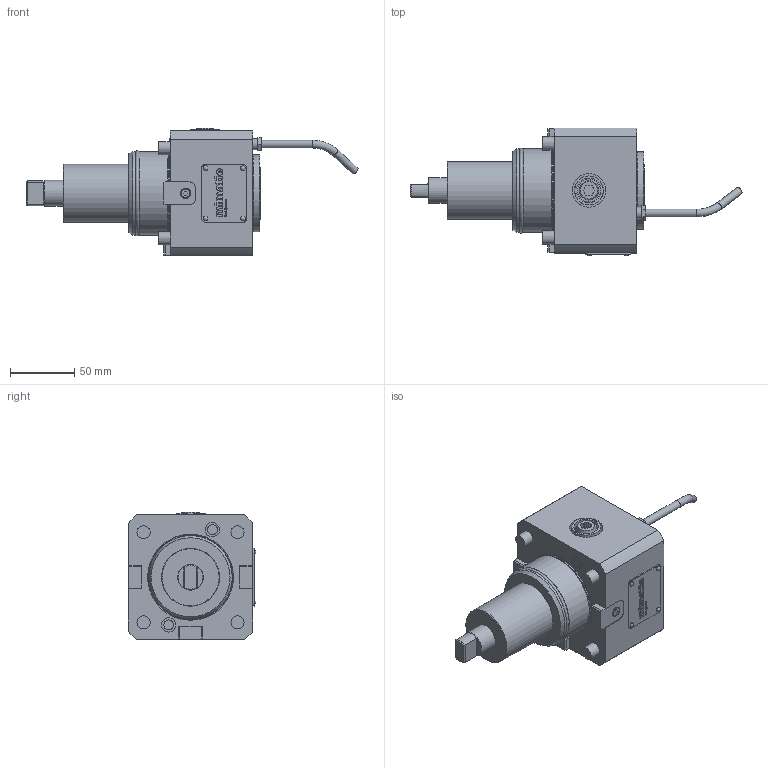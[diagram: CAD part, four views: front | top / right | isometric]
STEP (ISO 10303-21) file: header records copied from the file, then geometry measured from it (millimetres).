
FILE_DESCRIPTION(/* description */ (''),/* implementation_level */ '2;1');
FILE_NAME(/* name */ '197602',/* time_stamp */ '2021-12-16T15:48:41+01:00',/* author */ (''),/* organization */ (''),/* preprocessor_version */ 'ST-DEVELOPER v16.5',/* originating_system */ 'HiCAD 2017 2201.0 Build 268',/* authorisation */ '');
FILE_SCHEMA (('AUTOMOTIVE_DESIGN { 1 0 10303 214 1 1 1 1 }'));
Length unit declared in the file: millimetre
Products named in the file (2): Root; Teil
Assembly tree (1 placements, depth 2):
  Root
    Teil
Bounding box: 257.9 x 99.29 x 99 mm (x, y, z)
Volume: 790407 mm3; surface area: 81506.1 mm2
Topology: 2 solids, 6 shells, 584 faces, 1449 edges, 949 vertices
Faces by surface type: plane 375, cylinder 128, bspline 40, torus 24, cone 13, sphere 4
Full cylindrical faces by diameter (mm): 2 x4, 2.2 x4, 4 x2, 6 x2, 7 x3, 7.65 x2, 8 x3, 8.773 x1, 10.2 x4, 11.01 x2, 15 x1, 17.8 x1, 18 x4, 20 x5, 22.5 x1, 25.2 x1, 26 x1, 31.6 x1, 40 x1, 45 x2, 60 x1, 60.8 x1, 64.5 x1, 64.9 x2
Entity records: 32430 total; most frequent: CARTESIAN_POINT 5811, PRESENTATION_STYLE_ASSIGNMENT 2699, COLOUR_RGB 2699, DRAUGHTING_PRE_DEFINED_CURVE_FONT 2698, CURVE_STYLE 2698, OVER_RIDING_STYLED_ITEM 2698, ORIENTED_EDGE 2698, DIRECTION 2610
